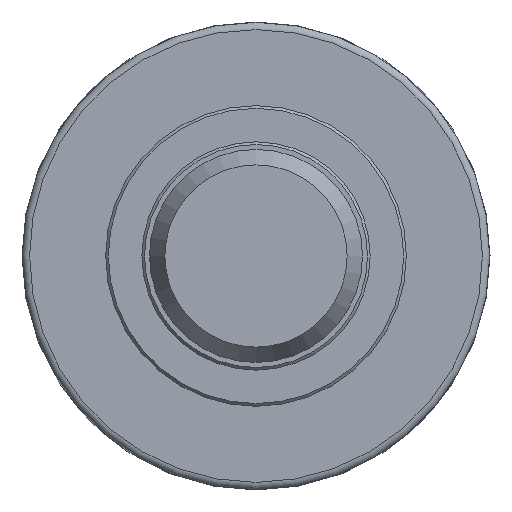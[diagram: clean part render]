
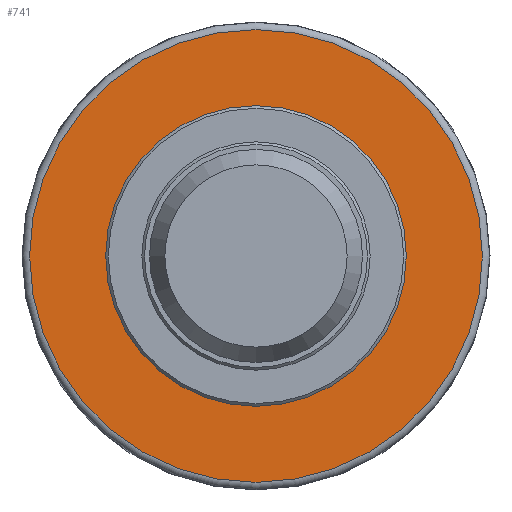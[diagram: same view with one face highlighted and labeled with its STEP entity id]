
A CAD part, left-side view. The second image highlights one B-rep face of the part: STEP entity #741.
In plain terms, the highlighted planar face has unit normal (-1, 0, 0).
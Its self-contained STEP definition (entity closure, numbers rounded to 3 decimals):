
#33=FACE_BOUND('',#141,.T.);
#55=PLANE('',#834);
#92=FACE_OUTER_BOUND('',#140,.T.);
#140=EDGE_LOOP('',(#631));
#141=EDGE_LOOP('',(#632));
#280=CIRCLE('',#833,59.5);
#281=CIRCLE('',#835,38.5);
#358=VERTEX_POINT('',#1494);
#359=VERTEX_POINT('',#1498);
#452=EDGE_CURVE('',#358,#358,#280,.T.);
#453=EDGE_CURVE('',#359,#359,#281,.T.);
#631=ORIENTED_EDGE('',*,*,#452,.F.);
#632=ORIENTED_EDGE('',*,*,#453,.T.);
#741=ADVANCED_FACE('',(#92,#33),#55,.T.);
#833=AXIS2_PLACEMENT_3D('',#1496,#1018,#1019);
#834=AXIS2_PLACEMENT_3D('',#1497,#1020,#1021);
#835=AXIS2_PLACEMENT_3D('',#1499,#1022,#1023);
#1018=DIRECTION('center_axis',(1.,0.,0.));
#1019=DIRECTION('ref_axis',(0.,-1.,0.));
#1020=DIRECTION('center_axis',(-1.,0.,0.));
#1021=DIRECTION('ref_axis',(0.,0.,1.));
#1022=DIRECTION('center_axis',(1.,0.,0.));
#1023=DIRECTION('ref_axis',(0.,1.,0.));
#1494=CARTESIAN_POINT('',(-26.,0.,59.5));
#1496=CARTESIAN_POINT('Origin',(-26.,0.,0.));
#1497=CARTESIAN_POINT('Origin',(-26.,50.,0.));
#1498=CARTESIAN_POINT('',(-26.,-38.5,0.));
#1499=CARTESIAN_POINT('Origin',(-26.,0.,0.));
